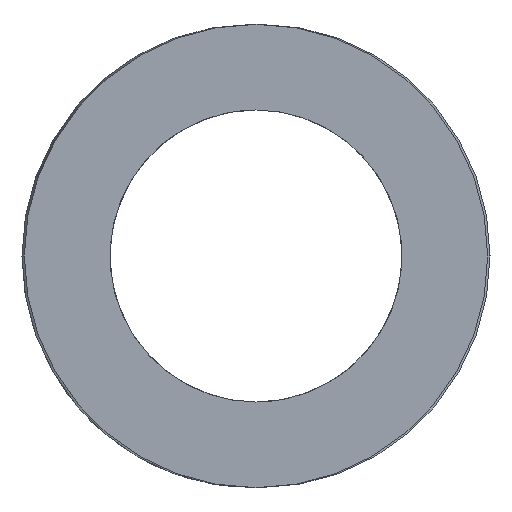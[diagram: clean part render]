
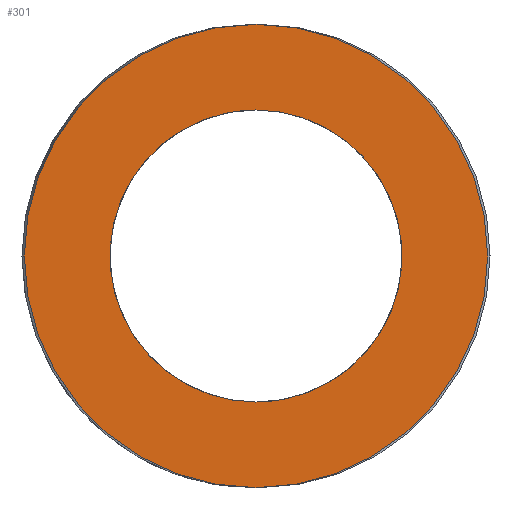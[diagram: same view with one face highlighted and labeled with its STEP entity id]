
A CAD part, left-side view. The second image highlights one B-rep face of the part: STEP entity #301.
In plain terms, the highlighted planar face has unit normal (-1, 0, 0).
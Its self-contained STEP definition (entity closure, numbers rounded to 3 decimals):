
#63=CARTESIAN_POINT('Vertex',(0.,31.1,0.)) ;
#77=CARTESIAN_POINT('Vertex',(0.,-31.1,0.)) ;
#80=CARTESIAN_POINT('Axis2P3D Location',(0.,0.,0.)) ;
#97=CARTESIAN_POINT('Axis2P3D Location',(0.,0.,0.)) ;
#232=CARTESIAN_POINT('Axis2P3D Location',(0.,15.55,0.)) ;
#242=CARTESIAN_POINT('Control Point',(0.,0.,-19.6)) ;
#243=CARTESIAN_POINT('Control Point',(0.,1.952,-19.6)) ;
#244=CARTESIAN_POINT('Control Point',(0.,3.904,-19.357)) ;
#245=CARTESIAN_POINT('Control Point',(0.,5.816,-18.871)) ;
#246=CARTESIAN_POINT('Control Point',(0.,9.478,-17.433)) ;
#247=CARTESIAN_POINT('Control Point',(0.,12.675,-15.142)) ;
#248=CARTESIAN_POINT('Control Point',(0.,14.123,-13.802)) ;
#249=CARTESIAN_POINT('Control Point',(0.,16.653,-10.789)) ;
#250=CARTESIAN_POINT('Control Point',(0.,18.368,-7.249)) ;
#251=CARTESIAN_POINT('Control Point',(0.,19.,-5.38)) ;
#252=CARTESIAN_POINT('Control Point',(0.,19.784,-1.525)) ;
#253=CARTESIAN_POINT('Control Point',(0.,19.6,2.405)) ;
#254=CARTESIAN_POINT('Control Point',(0.,19.262,4.348)) ;
#255=CARTESIAN_POINT('Control Point',(0.,18.11,8.11)) ;
#256=CARTESIAN_POINT('Control Point',(0.,16.071,11.474)) ;
#257=CARTESIAN_POINT('Control Point',(0.,14.846,13.02)) ;
#258=CARTESIAN_POINT('Control Point',(0.,12.037,15.775)) ;
#259=CARTESIAN_POINT('Control Point',(0.,8.639,17.757)) ;
#260=CARTESIAN_POINT('Control Point',(0.,6.824,18.53)) ;
#261=CARTESIAN_POINT('Control Point',(0.,4.349,19.236)) ;
#262=CARTESIAN_POINT('Control Point',(0.,1.809,19.53)) ;
#263=CARTESIAN_POINT('Control Point',(0.,1.206,19.577)) ;
#264=CARTESIAN_POINT('Control Point',(0.,0.603,19.6)) ;
#265=CARTESIAN_POINT('Control Point',(0.,0.,19.6)) ;
#266=CARTESIAN_POINT('Vertex',(0.,0.,-19.6)) ;
#268=CARTESIAN_POINT('Vertex',(0.,0.,19.6)) ;
#272=CARTESIAN_POINT('Control Point',(0.,0.,19.6)) ;
#273=CARTESIAN_POINT('Control Point',(0.,-1.952,19.6)) ;
#274=CARTESIAN_POINT('Control Point',(0.,-3.904,19.357)) ;
#275=CARTESIAN_POINT('Control Point',(0.,-5.816,18.871)) ;
#276=CARTESIAN_POINT('Control Point',(0.,-9.478,17.433)) ;
#277=CARTESIAN_POINT('Control Point',(0.,-12.675,15.142)) ;
#278=CARTESIAN_POINT('Control Point',(0.,-14.123,13.802)) ;
#279=CARTESIAN_POINT('Control Point',(0.,-16.653,10.789)) ;
#280=CARTESIAN_POINT('Control Point',(0.,-18.368,7.249)) ;
#281=CARTESIAN_POINT('Control Point',(0.,-19.,5.38)) ;
#282=CARTESIAN_POINT('Control Point',(0.,-19.784,1.525)) ;
#283=CARTESIAN_POINT('Control Point',(0.,-19.6,-2.405)) ;
#284=CARTESIAN_POINT('Control Point',(0.,-19.262,-4.348)) ;
#285=CARTESIAN_POINT('Control Point',(0.,-18.11,-8.11)) ;
#286=CARTESIAN_POINT('Control Point',(0.,-16.071,-11.474)) ;
#287=CARTESIAN_POINT('Control Point',(0.,-14.846,-13.02)) ;
#288=CARTESIAN_POINT('Control Point',(0.,-12.037,-15.775)) ;
#289=CARTESIAN_POINT('Control Point',(0.,-8.639,-17.757)) ;
#290=CARTESIAN_POINT('Control Point',(0.,-6.824,-18.53)) ;
#291=CARTESIAN_POINT('Control Point',(0.,-4.349,-19.236)) ;
#292=CARTESIAN_POINT('Control Point',(0.,-1.809,-19.53)) ;
#293=CARTESIAN_POINT('Control Point',(0.,-1.206,-19.577)) ;
#294=CARTESIAN_POINT('Control Point',(0.,-0.603,-19.6)) ;
#295=CARTESIAN_POINT('Control Point',(0.,0.,-19.6)) ;
#81=DIRECTION('Axis2P3D Direction',(1.,-0.,0.)) ;
#98=DIRECTION('Axis2P3D Direction',(1.,-0.,0.)) ;
#233=DIRECTION('Axis2P3D Direction',(-1.,0.,0.)) ;
#234=DIRECTION('Axis2P3D XDirection',(0.,1.,0.)) ;
#82=AXIS2_PLACEMENT_3D('Circle Axis2P3D',#80,#81,$) ;
#99=AXIS2_PLACEMENT_3D('Circle Axis2P3D',#97,#98,$) ;
#235=AXIS2_PLACEMENT_3D('Plane Axis2P3D',#232,#233,#234) ;
#238=ORIENTED_EDGE('',*,*,#84,.T.) ;
#239=ORIENTED_EDGE('',*,*,#101,.T.) ;
#298=ORIENTED_EDGE('',*,*,#270,.T.) ;
#299=ORIENTED_EDGE('',*,*,#296,.T.) ;
#300=FACE_BOUND('',#297,.T.) ;
#301=ADVANCED_FACE('392-B63-229',(#240,#300),#236,.T.) ;
#241=B_SPLINE_CURVE_WITH_KNOTS('',5,(#242,#243,#244,#245,#246,#247,#248,#249,#250,#251,#252,#253,#254,#255,#256,#257,#258,#259,#260,#261,#262,#263,#264,#265),.UNSPECIFIED.,.F.,.U.,(6,3,3,3,3,3,3,6),(0.,13.802,27.605,41.407,55.21,69.012,82.815,87.077),.UNSPECIFIED.) ;
#271=B_SPLINE_CURVE_WITH_KNOTS('',5,(#272,#273,#274,#275,#276,#277,#278,#279,#280,#281,#282,#283,#284,#285,#286,#287,#288,#289,#290,#291,#292,#293,#294,#295),.UNSPECIFIED.,.F.,.U.,(6,3,3,3,3,3,3,6),(0.,13.802,27.605,41.407,55.21,69.012,82.815,87.077),.UNSPECIFIED.) ;
#83=CIRCLE('generated circle',#82,31.1) ;
#100=CIRCLE('generated circle',#99,31.1) ;
#84=EDGE_CURVE('',#64,#78,#83,.F.) ;
#101=EDGE_CURVE('',#78,#64,#100,.F.) ;
#270=EDGE_CURVE('',#267,#269,#241,.T.) ;
#296=EDGE_CURVE('',#269,#267,#271,.T.) ;
#237=EDGE_LOOP('',(#238,#239)) ;
#297=EDGE_LOOP('',(#298,#299)) ;
#240=FACE_OUTER_BOUND('',#237,.T.) ;
#236=PLANE('Plane',#235) ;
#64=VERTEX_POINT('',#63) ;
#78=VERTEX_POINT('',#77) ;
#267=VERTEX_POINT('',#266) ;
#269=VERTEX_POINT('',#268) ;
